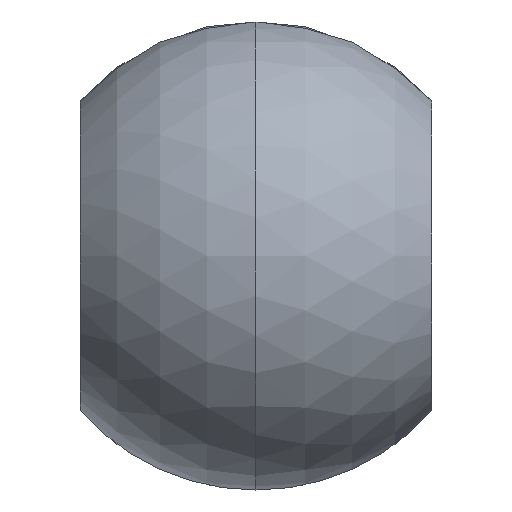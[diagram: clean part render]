
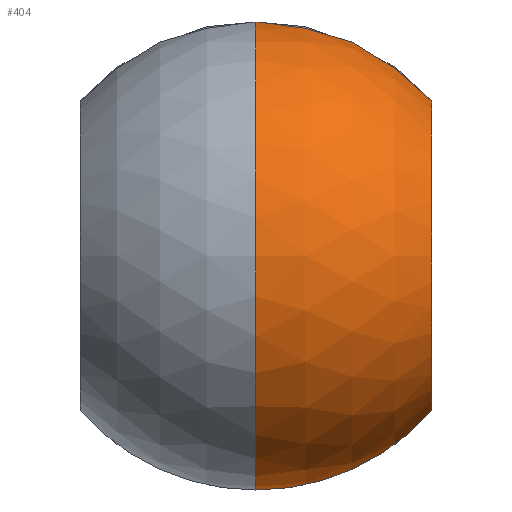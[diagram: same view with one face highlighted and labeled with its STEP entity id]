
A CAD part, left-side view. The second image highlights one B-rep face of the part: STEP entity #404.
In plain terms, the highlighted spherical face has radius 4 mm.
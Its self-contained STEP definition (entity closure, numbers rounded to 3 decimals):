
#2 = CARTESIAN_POINT ( 'NONE',  ( 0., -3., 2.646 ) ) ;
#13 = VERTEX_POINT ( 'NONE', #387 ) ;
#17 = DIRECTION ( 'NONE',  ( 0., 0., -1. ) ) ;
#27 = CARTESIAN_POINT ( 'NONE',  ( 0., -3., 0. ) ) ;
#48 = AXIS2_PLACEMENT_3D ( 'NONE', #345, #215, #431 ) ;
#55 = ORIENTED_EDGE ( 'NONE', *, *, #499, .F. ) ;
#58 = CARTESIAN_POINT ( 'NONE',  ( 0., -3., -2.646 ) ) ;
#67 = AXIS2_PLACEMENT_3D ( 'NONE', #27, #129, #17 ) ;
#89 = CARTESIAN_POINT ( 'NONE',  ( 0., 0., 0. ) ) ;
#90 = ORIENTED_EDGE ( 'NONE', *, *, #132, .T. ) ;
#117 = AXIS2_PLACEMENT_3D ( 'NONE', #156, #319, #490 ) ;
#127 = AXIS2_PLACEMENT_3D ( 'NONE', #463, #338, #381 ) ;
#129 = DIRECTION ( 'NONE',  ( 0., -1., 0. ) ) ;
#132 = EDGE_CURVE ( 'NONE', #13, #214, #329, .T. ) ;
#135 = EDGE_CURVE ( 'NONE', #527, #214, #364, .T. ) ;
#155 = ORIENTED_EDGE ( 'NONE', *, *, #430, .F. ) ;
#156 = CARTESIAN_POINT ( 'NONE',  ( 3.122, 0., 0. ) ) ;
#169 = CARTESIAN_POINT ( 'NONE',  ( 3.122, 0., -2.5 ) ) ;
#189 = DIRECTION ( 'NONE',  ( 0., 1., 0. ) ) ;
#214 = VERTEX_POINT ( 'NONE', #532 ) ;
#215 = DIRECTION ( 'NONE',  ( 0., -1., 0. ) ) ;
#218 = AXIS2_PLACEMENT_3D ( 'NONE', #89, #189, #405 ) ;
#220 = FACE_BOUND ( 'NONE', #448, .T. ) ;
#228 = DIRECTION ( 'NONE',  ( 0., -1., 0. ) ) ;
#232 = AXIS2_PLACEMENT_3D ( 'NONE', #484, #228, #525 ) ;
#248 = CIRCLE ( 'NONE', #117, 2.5 ) ;
#250 = VERTEX_POINT ( 'NONE', #2 ) ;
#264 = EDGE_CURVE ( 'NONE', #527, #13, #248, .T. ) ;
#266 = CIRCLE ( 'NONE', #67, 2.646 ) ;
#319 = DIRECTION ( 'NONE',  ( -1., 0., 0. ) ) ;
#329 = CIRCLE ( 'NONE', #232, 4. ) ;
#338 = DIRECTION ( 'NONE',  ( 0., -1., 0. ) ) ;
#345 = CARTESIAN_POINT ( 'NONE',  ( 0., -3., 0. ) ) ;
#350 = SPHERICAL_SURFACE ( 'NONE', #127, 4. ) ;
#363 = CIRCLE ( 'NONE', #48, 2.646 ) ;
#364 = CIRCLE ( 'NONE', #218, 4. ) ;
#381 = DIRECTION ( 'NONE',  ( 0., 0., -1. ) ) ;
#387 = CARTESIAN_POINT ( 'NONE',  ( 3.122, 0., 2.5 ) ) ;
#397 = ORIENTED_EDGE ( 'NONE', *, *, #135, .F. ) ;
#402 = FACE_OUTER_BOUND ( 'NONE', #553, .T. ) ;
#404 = ADVANCED_FACE ( 'NONE', ( #220, #402 ), #350, .T. ) ;
#405 = DIRECTION ( 'NONE',  ( 0., 0., 1. ) ) ;
#410 = VERTEX_POINT ( 'NONE', #58 ) ;
#430 = EDGE_CURVE ( 'NONE', #250, #410, #266, .T. ) ;
#431 = DIRECTION ( 'NONE',  ( 0., 0., -1. ) ) ;
#448 = EDGE_LOOP ( 'NONE', ( #55, #155 ) ) ;
#463 = CARTESIAN_POINT ( 'NONE',  ( 0., 0., 0. ) ) ;
#478 = ORIENTED_EDGE ( 'NONE', *, *, #264, .T. ) ;
#484 = CARTESIAN_POINT ( 'NONE',  ( 0., 0., 0. ) ) ;
#490 = DIRECTION ( 'NONE',  ( 0., 0., 1. ) ) ;
#499 = EDGE_CURVE ( 'NONE', #410, #250, #363, .T. ) ;
#525 = DIRECTION ( 'NONE',  ( 0., 0., -1. ) ) ;
#527 = VERTEX_POINT ( 'NONE', #169 ) ;
#532 = CARTESIAN_POINT ( 'NONE',  ( -4., 0., 0. ) ) ;
#553 = EDGE_LOOP ( 'NONE', ( #478, #90, #397 ) ) ;
